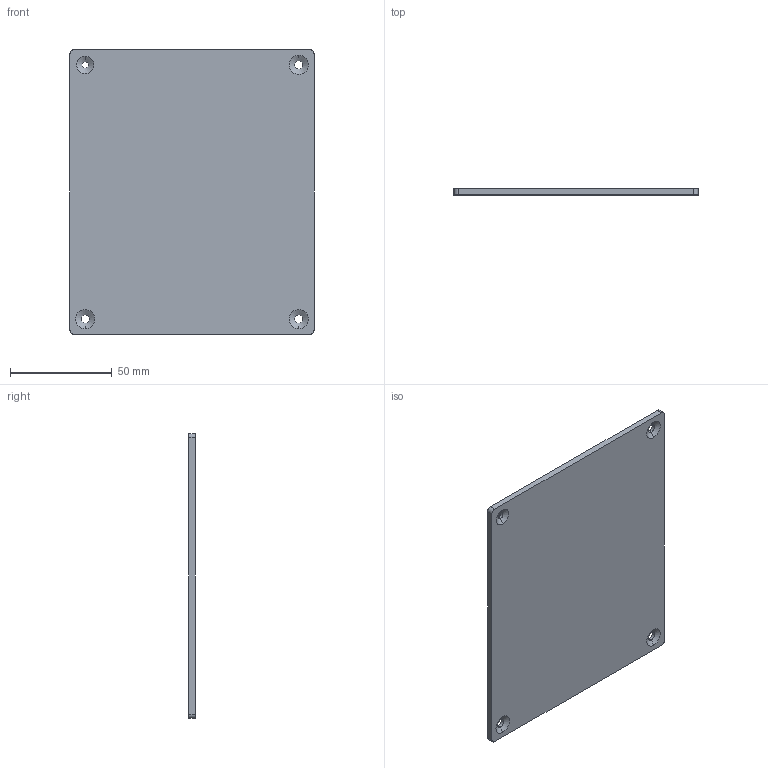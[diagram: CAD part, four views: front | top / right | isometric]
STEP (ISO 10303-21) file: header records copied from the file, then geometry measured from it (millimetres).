
FILE_DESCRIPTION (( 'STEP AP214' ), '1' );
FILE_NAME ('2019_miCube_Side_Cover.STEP', '2019-05-27T07:38:19', ( '' ), ( '' ), 'SwSTEP 2.0', 'SolidWorks 2017', '' );
FILE_SCHEMA (( 'AUTOMOTIVE_DESIGN' ));
Length unit declared in the file: millimetre
Products named in the file (1): 2019_miCube_Side_Cover
Bounding box: 120 x 3 x 140 mm (x, y, z)
Volume: 50099.6 mm3; surface area: 35150.7 mm2
Topology: 1 solids, 1 shells, 26 faces, 64 edges, 40 vertices
Faces by surface type: cylinder 12, cone 8, plane 6
Entity records: 837 total; most frequent: DIRECTION 150, CARTESIAN_POINT 131, ORIENTED_EDGE 128, EDGE_CURVE 64, AXIS2_PLACEMENT_3D 59, VERTEX_POINT 40, EDGE_LOOP 34, VECTOR 32
